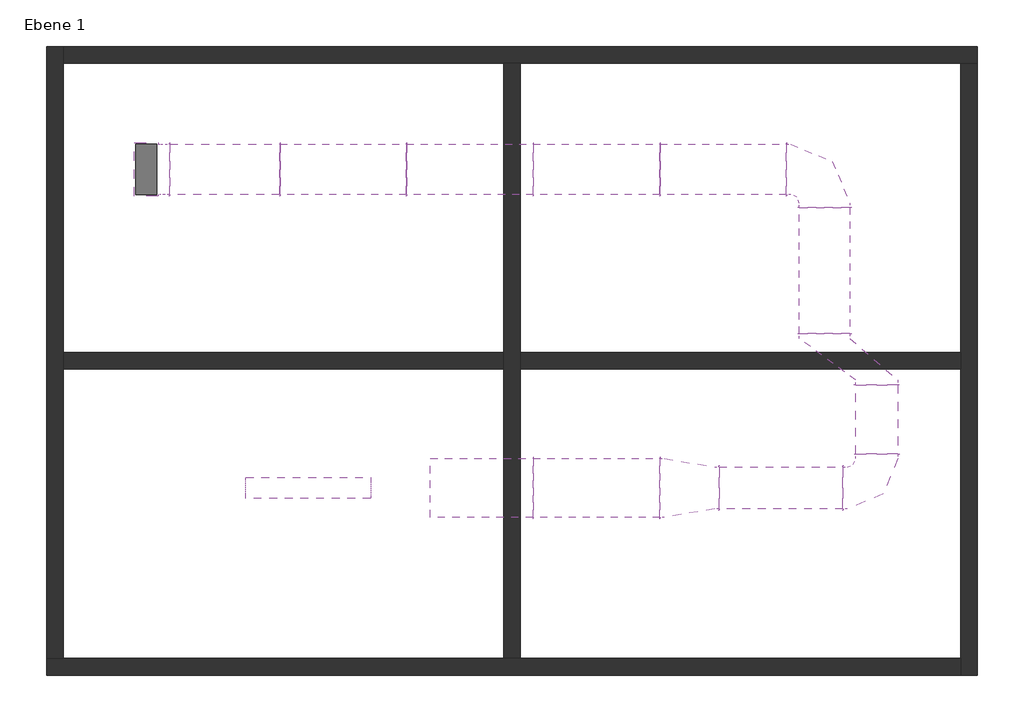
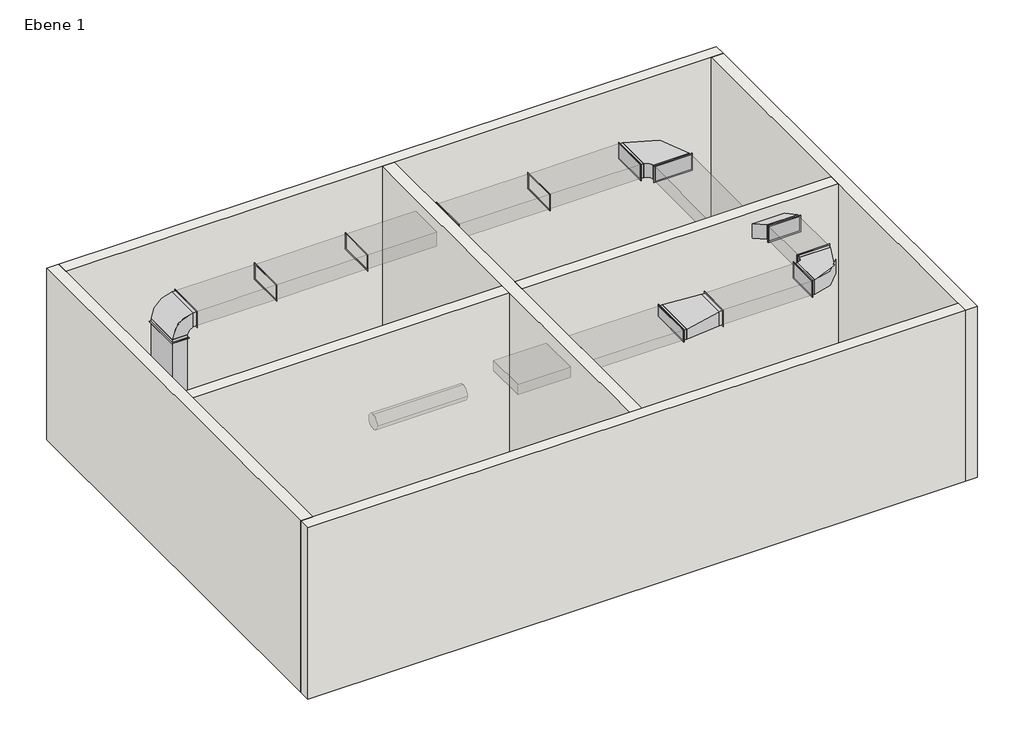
# One storey, incomplete: 12 duct segments, 10 duct fittings, 6 walls.
"""IFC4 building model written with IfcOpenShell, lengths in millimetres."""

import ifcopenshell
import ifcopenshell.guid

model = None  # the IFC model being written
_history = None  # IfcOwnerHistory: only IFC2X3 demands one
_inside = {}  # id of a spatial element -> (the spatial element, [elements in it])
_under = {}  # id of a project, library or spatial element -> (it, [spatial elements below it])
_declared = {}  # id of a project -> (the project, [libraries it declares])
_typed = {}  # id of a type object -> (the type object, [elements of that type])
_made_of = {}  # id of a material, layer set ... -> (it, [elements and type objects made of it])


def new_model(schema):
    """Start an empty IFC model of exactly this schema.

    Asked for "IFC4X3", IfcOpenShell would pick the latest addendum, in which some entities
    have other attributes; the version numbers below select the first issue.
    IFC2X3 requires an IfcOwnerHistory on every rooted entity: one is made here for all.
    """
    global model, _history
    if schema == "IFC4X3":
        model = ifcopenshell.file(schema_version=(4, 3, 0, 0))
    else:
        model = ifcopenshell.file(schema=schema)
    _inside.clear()
    _under.clear()
    _declared.clear()
    _typed.clear()
    _made_of.clear()
    _history = None
    if model.schema == "IFC2X3":
        org = make("IfcOrganization", Name="unknown")
        user = make(
            "IfcPersonAndOrganization",
            ThePerson=make("IfcPerson", FamilyName="unknown"),
            TheOrganization=org,
        )
        app = make(
            "IfcApplication",
            ApplicationDeveloper=org,
            Version="unknown",
            ApplicationFullName="unknown",
            ApplicationIdentifier="unknown",
        )
        _history = make(
            "IfcOwnerHistory",
            OwningUser=user,
            OwningApplication=app,
            ChangeAction="ADDED",
            CreationDate=0,
        )
    return model


def make(cls, **values):
    """One entity of the class cls with the attributes given. An attribute that is None is left unset."""
    return model.create_entity(
        cls, **{name: value for name, value in values.items() if value is not None}
    )


def rooted(cls, **values):
    """An entity with a GlobalId (a new one), such as an element, a storey or a relation."""
    return make(cls, GlobalId=ifcopenshell.guid.new(), OwnerHistory=_history, **values)


def si_unit(unit_type, name, prefix=None):
    """IfcSIUnit, for example si_unit("LENGTHUNIT", "METRE", prefix="MILLI")."""
    return make("IfcSIUnit", UnitType=unit_type, Prefix=prefix, Name=name)


def assignment(units):
    """IfcUnitAssignment: the units of a project."""
    return None if units is None else make("IfcUnitAssignment", Units=units)


def point(xyz):
    """IfcCartesianPoint."""
    return None if xyz is None else make("IfcCartesianPoint", Coordinates=xyz)


def direction(xyz):
    """IfcDirection."""
    return None if xyz is None else make("IfcDirection", DirectionRatios=xyz)


def frame(location, z_axis=None, x_axis=None):
    """IfcAxis2Placement3D, a coordinate frame: its origin and axes. An axis left out is left unset."""
    return make(
        "IfcAxis2Placement3D",
        Location=point(location),
        Axis=direction(z_axis),
        RefDirection=direction(x_axis),
    )


def frame_2d(location, x_axis=None):
    """IfcAxis2Placement2D, a coordinate frame in the plane: its origin and x axis."""
    return make(
        "IfcAxis2Placement2D", Location=point(location), RefDirection=direction(x_axis)
    )


def origin():
    """The frame at (0, 0, 0) with its axes left unset."""
    return frame((0.0, 0.0, 0.0))


def place(relative_to, where):
    """IfcLocalPlacement: puts the frame where relative to a parent placement (None: the world)."""
    return make(
        "IfcLocalPlacement", PlacementRelTo=relative_to, RelativePlacement=where
    )


def context(
    kind, dimensions, precision=None, world=None, true_north=None, identifier=None
):
    """IfcGeometricRepresentationContext, for example the 3D "Model" context."""
    return make(
        "IfcGeometricRepresentationContext",
        ContextIdentifier=identifier,
        ContextType=kind,
        CoordinateSpaceDimension=dimensions,
        Precision=precision,
        WorldCoordinateSystem=world,
        TrueNorth=true_north,
    )


def project(units=None, contexts=None):
    """IfcProject with its units and contexts."""
    return rooted(
        "IfcProject",
        Name="project",
        RepresentationContexts=contexts,
        UnitsInContext=assignment(units),
    )


def spatial(cls, under=None, at=None, **own):
    """A site, building, storey or space (cls), placed at a placement, below another one or the project."""
    s = rooted(cls, ObjectPlacement=at, **own)
    if under is not None:
        _under.setdefault(under.id(), (under, []))[1].append(s)
    return s


def polyline(points):
    """IfcPolyline through the points."""
    return make("IfcPolyline", Points=[point(p) for p in points])


def circle_curve(where, radius):
    """IfcCircle in the frame where."""
    return make("IfcCircle", Position=where, Radius=radius)


def trimmed(basis, trim1, trim2, sense, master):
    """IfcTrimmedCurve: the piece of a basis curve between two trims."""
    return make(
        "IfcTrimmedCurve",
        BasisCurve=basis,
        Trim1=trim1,
        Trim2=trim2,
        SenseAgreement=sense,
        MasterRepresentation=master,
    )


def segment(curve, same_sense, transition):
    """IfcCompositeCurveSegment."""
    return make(
        "IfcCompositeCurveSegment",
        Transition=transition,
        SameSense=same_sense,
        ParentCurve=curve,
    )


def composite_curve(segments, self_intersect=None):
    """IfcCompositeCurve: segments joined end to end."""
    return make("IfcCompositeCurve", Segments=segments, SelfIntersect=self_intersect)


def outline(outer, holes=None, kind="AREA"):
    """IfcArbitraryClosedProfileDef: a profile drawn as a closed curve; with holes, ...WithVoids."""
    if holes is None:
        return make("IfcArbitraryClosedProfileDef", ProfileType=kind, OuterCurve=outer)
    return make(
        "IfcArbitraryProfileDefWithVoids",
        ProfileType=kind,
        OuterCurve=outer,
        InnerCurves=holes,
    )


def extrude(swept, where, along, depth):
    """IfcExtrudedAreaSolid: the profile swept, set in the frame where, extruded along a direction by depth."""
    return make(
        "IfcExtrudedAreaSolid",
        SweptArea=swept,
        Position=where,
        ExtrudedDirection=direction(along),
        Depth=depth,
    )


def faces_of(points, faces, orient=None, outer=None):
    """IfcFace entities. A face is a list of loops; a loop is a list of indices into points, from 0.

    orient and outer hold one flag for each loop. By default every Orientation is true, the
    first loop of a face is its IfcFaceOuterBound and the others are IfcFaceBound.
    """
    made = []
    for i, loops in enumerate(faces):
        bounds = []
        for j, loop in enumerate(loops):
            is_outer = j == 0 if outer is None else outer[i][j]
            bounds.append(
                make(
                    "IfcFaceOuterBound" if is_outer else "IfcFaceBound",
                    Bound=make("IfcPolyLoop", Polygon=[points[k] for k in loop]),
                    Orientation=True if orient is None else orient[i][j],
                )
            )
        made.append(make("IfcFace", Bounds=bounds))
    return made


def faceted_brep(points, faces, orient=None, outer=None, voids=None):
    """IfcFacetedBrep: a solid bounded by flat faces; with voids (closed shells), ...WithVoids."""
    shared = [point(p) for p in points]
    hull = make("IfcClosedShell", CfsFaces=faces_of(shared, faces, orient, outer))
    if voids is None:
        return make("IfcFacetedBrep", Outer=hull)
    return make(
        "IfcFacetedBrepWithVoids",
        Outer=hull,
        Voids=[
            make(cls, CfsFaces=faces_of(shared, fs, o, b)) for cls, fs, o, b in voids
        ],
    )


def shape(context_of_items, identifier, shape_type, items):
    """IfcShapeRepresentation: the items that make up one representation, for example the "Body"."""
    return make(
        "IfcShapeRepresentation",
        ContextOfItems=context_of_items,
        RepresentationIdentifier=identifier,
        RepresentationType=shape_type,
        Items=items,
    )


def source(mapping_origin, context_of_items, identifier, shape_type, items):
    """IfcRepresentationMap: a shape defined once, which mapped items show again and again."""
    return make(
        "IfcRepresentationMap",
        MappingOrigin=mapping_origin,
        MappedRepresentation=shape(context_of_items, identifier, shape_type, items),
    )


def transform(
    local_origin,
    x_axis=None,
    y_axis=None,
    z_axis=None,
    scale=None,
    scale2=None,
    scale3=None,
    uniform=True,
):
    """IfcCartesianTransformationOperator3D, or its non-uniform kind. x_axis, y_axis, z_axis: its Axis1, 2, 3."""
    if uniform:
        return make(
            "IfcCartesianTransformationOperator3D",
            Axis1=direction(x_axis),
            Axis2=direction(y_axis),
            LocalOrigin=point(local_origin),
            Scale=scale,
            Axis3=direction(z_axis),
        )
    return make(
        "IfcCartesianTransformationOperator3DnonUniform",
        Axis1=direction(x_axis),
        Axis2=direction(y_axis),
        LocalOrigin=point(local_origin),
        Scale=scale,
        Axis3=direction(z_axis),
        Scale2=scale2,
        Scale3=scale3,
    )


def mapped(mapping_source, mapping_target):
    """IfcMappedItem: shows the shape of a source again, moved by a transform."""
    return make(
        "IfcMappedItem", MappingSource=mapping_source, MappingTarget=mapping_target
    )


def made_of(thing, what):
    """Note that an element or type object is made of a material, layer set ...; save() writes the relation."""
    if what is not None:
        _made_of.setdefault(what.id(), (what, []))[1].append(thing)
    return thing


def element(
    cls,
    number,
    at=None,
    inside=None,
    cuts=None,
    type_object=None,
    material=None,
    context=None,
    identifier="Body",
    shape_type=None,
    held_by="IfcProductDefinitionShape",
    body=None,
    shapes=None,
    **own,
):
    """One element of the class cls, such as IfcWall. Its Tag is "e" and its number.

    at: its placement. inside: the storey or other place that contains it. cuts: it is an
    opening in that element (IfcRelVoidsElement). A single representation is given by context,
    identifier, shape_type and body (its items); several are given by shapes. held_by: the class
    of the entity that holds the representations. save() writes the other relations.
    """
    e = rooted(cls, Tag="e%d" % number, ObjectPlacement=at, **own)
    if body is not None:
        shapes = [shape(context, identifier, shape_type, body)]
    if shapes is not None:
        e.Representation = make(held_by, Representations=shapes)
    if inside is not None:
        _inside.setdefault(inside.id(), (inside, []))[1].append(e)
    if cuts is not None:
        rooted(
            "IfcRelVoidsElement", RelatingBuildingElement=cuts, RelatedOpeningElement=e
        )
    if type_object is not None:
        _typed.setdefault(type_object.id(), (type_object, []))[1].append(e)
    return made_of(e, material)


def aggregate(whole, parts):
    """IfcRelAggregates: a whole, such as a stair, and the parts it consists of."""
    return rooted("IfcRelAggregates", RelatingObject=whole, RelatedObjects=parts)


def save(model, path):
    """Write the relations noted so far, then the file.

    IfcRelAggregates (storeys below a building ...), IfcRelContainedInSpatialStructure (elements
    in a storey), IfcRelDefinesByType, IfcRelAssociatesMaterial and IfcRelDeclares: one each for
    every whole, place, type object, material and project.
    """
    for whole, parts in _under.values():
        aggregate(whole, parts)
    for where, things in _inside.values():
        rooted(
            "IfcRelContainedInSpatialStructure",
            RelatedElements=things,
            RelatingStructure=where,
        )
    for kind, things in _typed.values():
        rooted("IfcRelDefinesByType", RelatedObjects=things, RelatingType=kind)
    for what, things in _made_of.values():
        rooted("IfcRelAssociatesMaterial", RelatedObjects=things, RelatingMaterial=what)
    for by, libraries in _declared.values():
        rooted("IfcRelDeclares", RelatingContext=by, RelatedDefinitions=libraries)
    model.write(path)


def standard_865bd023(model_context):
    return source(origin(), model_context, "Body", "SweptSolid", [
        extrude(outline(polyline([(300.0, 400.0), (-300.0, 400.0), (-300.0, 455.0), (300.0, 455.0), (300.0, 400.0)])), frame((0.0, 0.0, -125.0), z_axis=(0.0, 0.0, 1.0), x_axis=(1.0, 0.0, 0.0)), (0.0, 0.0, 1.0), 250.0),
        extrude(outline(polyline([(-455.0, 300.0), (-400.0, 300.0), (-400.0, -300.0), (-455.0, -300.0), (-455.0, 300.0)])), frame((0.0, 0.0, -125.0), z_axis=(0.0, 0.0, 1.0), x_axis=(1.0, 0.0, 0.0)), (0.0, 0.0, 1.0), 250.0),
        extrude(outline(composite_curve([segment(trimmed(circle_curve(frame_2d((-400.0, 400.0)), 700.0), [point((300.0, 400.0))], [point((-400.0, -300.0))], False, "CARTESIAN"), True, "CONTINUOUS"), segment(polyline([(-400.0, -300.0), (-400.0, 300.0)]), True, "CONTINUOUS"), segment(trimmed(circle_curve(frame_2d((-400.0, 400.0)), 100.0), [point((-400.0, 300.0))], [point((-300.0, 400.0))], True, "CARTESIAN"), True, "CONTINUOUS"), segment(polyline([(-300.0, 400.0), (300.0, 400.0)]), True, "CONTINUOUS")], self_intersect=False)), frame((0.0, 0.0, -125.0), z_axis=(0.0, 0.0, 1.0), x_axis=(1.0, 0.0, 0.0)), (0.0, 0.0, 1.0), 250.0),
        extrude(outline(polyline([(-455.0, -320.0), (-455.0, 320.0), (-450.0, 320.0), (-450.0, -320.0), (-455.0, -320.0)])), frame((0.0, 0.0, -145.0), z_axis=(0.0, 0.0, 1.0), x_axis=(1.0, 0.0, 0.0)), (0.0, 0.0, 1.0), 290.0),
        extrude(outline(polyline([(320.0, 450.0), (-320.0, 450.0), (-320.0, 455.0), (320.0, 455.0), (320.0, 450.0)])), frame((0.0, 0.0, -145.0), z_axis=(0.0, 0.0, 1.0), x_axis=(1.0, 0.0, 0.0)), (0.0, 0.0, 1.0), 290.0),
    ])


def standard_b8ae673c(model_context):
    return source(origin(), model_context, "Body", "SweptSolid", [
        extrude(outline(polyline([(-320.0, 145.0), (320.0, 145.0), (320.0, -145.0), (-320.0, -145.0), (-320.0, 145.0)]), holes=[polyline([(-300.0, 125.0), (-300.0, -125.0), (300.0, -125.0), (300.0, 125.0), (-300.0, 125.0)])]), frame((0.0, 0.0, 0.0), z_axis=(1.0, 0.0, 0.0), x_axis=(0.0, 1.0, 0.0)), (0.0, 0.0, 1.0), 5.0),
    ])


def standard_5b17af85(model_context):
    return source(origin(), model_context, "Body", "SweptSolid", [
        extrude(outline(polyline([(250.0, 350.0), (-250.0, 350.0), (-250.0, 405.0), (250.0, 405.0), (250.0, 350.0)])), frame((0.0, 0.0, -125.0), z_axis=(0.0, 0.0, 1.0), x_axis=(1.0, 0.0, 0.0)), (0.0, 0.0, 1.0), 250.0),
        extrude(outline(polyline([(-405.0, 250.0), (-350.0, 250.0), (-350.0, -250.0), (-405.0, -250.0), (-405.0, 250.0)])), frame((0.0, 0.0, -125.0), z_axis=(0.0, 0.0, 1.0), x_axis=(1.0, 0.0, 0.0)), (0.0, 0.0, 1.0), 250.0),
        extrude(outline(composite_curve([segment(trimmed(circle_curve(frame_2d((-350.0, 350.0)), 600.0), [point((250.0, 350.0))], [point((-350.0, -250.0))], False, "CARTESIAN"), True, "CONTINUOUS"), segment(polyline([(-350.0, -250.0), (-350.0, 250.0)]), True, "CONTINUOUS"), segment(trimmed(circle_curve(frame_2d((-350.0, 350.0)), 100.0), [point((-350.0, 250.0))], [point((-250.0, 350.0))], True, "CARTESIAN"), True, "CONTINUOUS"), segment(polyline([(-250.0, 350.0), (250.0, 350.0)]), True, "CONTINUOUS")], self_intersect=False)), frame((0.0, 0.0, -125.0), z_axis=(0.0, 0.0, 1.0), x_axis=(1.0, 0.0, 0.0)), (0.0, 0.0, 1.0), 250.0),
        extrude(outline(polyline([(-405.0, -270.0), (-405.0, 270.0), (-400.0, 270.0), (-400.0, -270.0), (-405.0, -270.0)])), frame((0.0, 0.0, -145.0), z_axis=(0.0, 0.0, 1.0), x_axis=(1.0, 0.0, 0.0)), (0.0, 0.0, 1.0), 290.0),
        extrude(outline(polyline([(270.0, 400.0), (-270.0, 400.0), (-270.0, 405.0), (270.0, 405.0), (270.0, 400.0)])), frame((0.0, 0.0, -145.0), z_axis=(0.0, 0.0, 1.0), x_axis=(1.0, 0.0, 0.0)), (0.0, 0.0, 1.0), 290.0),
    ])


def standard_06fb8837(model_context):
    return source(origin(), model_context, "Body", "SweptSolid", [
        extrude(outline(polyline([(555.0, 323.5465335), (555.0, 923.5465335), (610.0, 923.5465335), (610.0, 323.5465335), (555.0, 323.5465335)])), frame((0.0, 0.0, -125.0), z_axis=(0.0, 0.0, 1.0), x_axis=(1.0, 0.0, 0.0)), (0.0, 0.0, 1.0), 250.0),
        extrude(outline(polyline([(55.0, -250.0), (55.0, 250.0), (555.0, 923.5465335), (555.0, 323.5465335), (55.0, -250.0)])), frame((0.0, 0.0, -125.0), z_axis=(0.0, 0.0, 1.0), x_axis=(1.0, 0.0, 0.0)), (0.0, 0.0, 1.0), 250.0),
        extrude(outline(polyline([(0.0, -250.0), (0.0, 250.0), (55.0, 250.0), (55.0, -250.0), (0.0, -250.0)])), frame((0.0, 0.0, -125.0), z_axis=(0.0, 0.0, 1.0), x_axis=(1.0, 0.0, 0.0)), (0.0, 0.0, 1.0), 250.0),
        extrude(outline(polyline([(605.0, 303.5465335), (605.0, 943.5465335), (610.0, 943.5465335), (610.0, 303.5465335), (605.0, 303.5465335)])), frame((0.0, 0.0, -145.0), z_axis=(0.0, 0.0, 1.0), x_axis=(1.0, 0.0, 0.0)), (0.0, 0.0, 1.0), 290.0),
        extrude(outline(polyline([(0.0, -270.0), (0.0, 270.0), (5.0, 270.0), (5.0, -270.0), (0.0, -270.0)])), frame((0.0, 0.0, -145.0), z_axis=(0.0, 0.0, 1.0), x_axis=(1.0, 0.0, 0.0)), (0.0, 0.0, 1.0), 290.0),
    ])


def standard_ae849d8b(model_context):
    return source(origin(), model_context, "Body", "SweptSolid", [
        extrude(outline(polyline([(-370.0, 107.5), (370.0, 107.5), (370.0, -107.5), (-370.0, -107.5), (-370.0, 107.5)]), holes=[polyline([(-350.0, 87.5), (-350.0, -87.5), (350.0, -87.5), (350.0, 87.5), (-350.0, 87.5)])]), frame((0.0, 0.0, 0.0), z_axis=(1.0, 0.0, 0.0), x_axis=(0.0, 1.0, 0.0)), (0.0, 0.0, 1.0), 5.0),
    ])


def standard_6fa5d38b(model_context):
    return source(origin(), model_context, "Body", "SolidModel", [
        extrude(outline(polyline([(655.0, -250.0), (655.0, 250.0), (710.0, 250.0), (710.0, -250.0), (655.0, -250.0)])), frame((0.0, 0.0, -125.0), z_axis=(0.0, 0.0, 1.0), x_axis=(1.0, 0.0, 0.0)), (0.0, 0.0, 1.0), 250.0),
        faceted_brep([(655.0, 250.0, 125.0), (655.0, -250.0, 125.0), (655.0, -250.0, -125.0), (655.0, 250.0, -125.0), (55.0, 350.0, 87.5), (55.0, 350.0, -87.5), (55.0, -350.0, -87.5), (55.0, -350.0, 87.5)], [[[0, 1, 2, 3]], [[4, 5, 6, 7]], [[5, 4, 0, 3]], [[4, 7, 1, 0]], [[7, 6, 2, 1]], [[6, 5, 3, 2]]]),
        extrude(outline(polyline([(0.0, -350.0), (0.0, 350.0), (55.0, 350.0), (55.0, -350.0), (0.0, -350.0)])), frame((0.0, 0.0, -87.5), z_axis=(0.0, 0.0, 1.0), x_axis=(1.0, 0.0, 0.0)), (0.0, 0.0, 1.0), 175.0),
        extrude(outline(polyline([(705.0, -270.0), (705.0, 270.0), (710.0, 270.0), (710.0, -270.0), (705.0, -270.0)])), frame((0.0, 0.0, -145.0), z_axis=(0.0, 0.0, 1.0), x_axis=(1.0, 0.0, 0.0)), (0.0, 0.0, 1.0), 290.0),
        extrude(outline(polyline([(0.0, -370.0), (0.0, 370.0), (5.0, 370.0), (5.0, -370.0), (0.0, -370.0)])), frame((0.0, 0.0, -107.5), z_axis=(0.0, 0.0, 1.0), x_axis=(1.0, 0.0, 0.0)), (0.0, 0.0, 1.0), 215.0),
    ])


def standard_d2678366(model_context):
    return source(origin(), model_context, "Body", "SweptSolid", [
        extrude(outline(polyline([(125.0, 225.0), (-125.0, 225.0), (-125.0, 280.0), (125.0, 280.0), (125.0, 225.0)])), frame((0.0, 0.0, -300.0), z_axis=(0.0, 0.0, 1.0), x_axis=(1.0, 0.0, 0.0)), (0.0, 0.0, 1.0), 600.0),
        extrude(outline(polyline([(-280.0, 125.0), (-225.0, 125.0), (-225.0, -125.0), (-280.0, -125.0), (-280.0, 125.0)])), frame((0.0, 0.0, -300.0), z_axis=(0.0, 0.0, 1.0), x_axis=(1.0, 0.0, 0.0)), (0.0, 0.0, 1.0), 600.0),
        extrude(outline(composite_curve([segment(trimmed(circle_curve(frame_2d((-225.0, 225.0)), 350.0), [point((125.0, 225.0))], [point((-225.0, -125.0))], False, "CARTESIAN"), True, "CONTINUOUS"), segment(polyline([(-225.0, -125.0), (-225.0, 125.0)]), True, "CONTINUOUS"), segment(trimmed(circle_curve(frame_2d((-225.0, 225.0)), 100.0), [point((-225.0, 125.0))], [point((-125.0, 225.0))], True, "CARTESIAN"), True, "CONTINUOUS"), segment(polyline([(-125.0, 225.0), (125.0, 225.0)]), True, "CONTINUOUS")], self_intersect=False)), frame((0.0, 0.0, -300.0), z_axis=(0.0, 0.0, 1.0), x_axis=(1.0, 0.0, 0.0)), (0.0, 0.0, 1.0), 600.0),
        extrude(outline(polyline([(-280.0, -145.0), (-280.0, 145.0), (-275.0, 145.0), (-275.0, -145.0), (-280.0, -145.0)])), frame((0.0, 0.0, -320.0), z_axis=(0.0, 0.0, 1.0), x_axis=(1.0, 0.0, 0.0)), (0.0, 0.0, 1.0), 640.0),
        extrude(outline(polyline([(145.0, 275.0), (-145.0, 275.0), (-145.0, 280.0), (145.0, 280.0), (145.0, 275.0)])), frame((0.0, 0.0, -320.0), z_axis=(0.0, 0.0, 1.0), x_axis=(1.0, 0.0, 0.0)), (0.0, 0.0, 1.0), 640.0),
    ])


model = new_model("IFC4")

# Units and contexts
model_context = context("Model", 3, world=origin())
ifc_project = project(units=[si_unit("LENGTHUNIT", "METRE", prefix="MILLI")], contexts=[model_context])

# Site, building, storey
site = spatial("IfcSite", under=ifc_project)
building = spatial("IfcBuilding", under=site)
storey = spatial("IfcBuildingStorey", under=building, Name="Ebene 1", Elevation=3000.0)

# Duct fittings
placement = place(None, origin())
standard_shape = standard_865bd023(model_context)
element("IfcDuctFitting", 1, ObjectType="Bogen rechteck BS : Standard", at=placement, inside=storey, context=model_context, shape_type="MappedRepresentation", body=[
    mapped(standard_shape, transform((9176.0301103, 5932.8790279, 5673.7185147), x_axis=(0.0, 1.0, 0.0), y_axis=(-1.0, 0.0, 0.0), z_axis=(0.0, 0.0, 1.0))),
])
standard_2_shape = standard_b8ae673c(model_context)
element("IfcDuctFitting", 2, ObjectType="Flansch rechteck : Standard", at=placement, inside=storey, context=model_context, shape_type="MappedRepresentation", body=[
    mapped(standard_2_shape, transform((2681.0301583, 5932.8790279, 5673.7185147), x_axis=(1.0, 0.0, 0.0), y_axis=(0.0, 1.0, 0.0), z_axis=(0.0, 0.0, 1.0))),
])
element("IfcDuctFitting", 3, ObjectType="Flansch rechteck : Standard", at=placement, inside=storey, context=model_context, shape_type="MappedRepresentation", body=[
    mapped(standard_2_shape, transform((4191.0302063, 5932.8790279, 5673.7185147), x_axis=(1.0, 0.0, 0.0), y_axis=(0.0, 1.0, 0.0), z_axis=(0.0, 0.0, 1.0))),
])
element("IfcDuctFitting", 4, ObjectType="Flansch rechteck : Standard", at=placement, inside=storey, context=model_context, shape_type="MappedRepresentation", body=[
    mapped(standard_2_shape, transform((5701.0302543, 5932.8790279, 5673.7185147), x_axis=(1.0, 0.0, 0.0), y_axis=(0.0, 1.0, 0.0), z_axis=(0.0, 0.0, 1.0))),
])
element("IfcDuctFitting", 5, ObjectType="Flansch rechteck : Standard", at=placement, inside=storey, context=model_context, shape_type="MappedRepresentation", body=[
    mapped(standard_2_shape, transform((7211.0303023, 5932.8790279, 5673.7185147), x_axis=(1.0, 0.0, 0.0), y_axis=(0.0, 1.0, 0.0), z_axis=(0.0, 0.0, 1.0))),
])
standard_3_shape = standard_5b17af85(model_context)
element("IfcDuctFitting", 6, ObjectType="Bogen rechteck BS : Standard", at=placement, inside=storey, context=model_context, shape_type="MappedRepresentation", body=[
    mapped(standard_3_shape, transform((9799.5766439, 2132.8790279, 5673.7185147), x_axis=(1.0, 0.0, 0.0), y_axis=(0.0, 1.0, 0.0), z_axis=(0.0, 0.0, 1.0))),
])
standard_4_shape = standard_06fb8837(model_context)
element("IfcDuctFitting", 7, ObjectType="Übergang rechteck UA : Standard", at=placement, inside=storey, context=model_context, shape_type="MappedRepresentation", body=[
    mapped(standard_4_shape, transform((9799.5766439, 3362.8789799, 5673.7185147), x_axis=(0.0, 1.0, 0.0), y_axis=(-1.0, 0.0, 0.0), z_axis=(0.0, 0.0, 1.0))),
])
standard_5_shape = standard_ae849d8b(model_context)
element("IfcDuctFitting", 8, ObjectType="Flansch rechteck : Standard", at=placement, inside=storey, context=model_context, shape_type="MappedRepresentation", body=[
    mapped(standard_5_shape, transform((5706.0300143, 2132.8790279, 5673.7185147), x_axis=(-1.0, 0.0, 0.0), y_axis=(0.0, -1.0, 0.0), z_axis=(0.0, 0.0, 1.0))),
])
standard_6_shape = standard_6fa5d38b(model_context)
element("IfcDuctFitting", 9, ObjectType="Übergang rechteck UA : Standard", at=placement, inside=storey, context=model_context, shape_type="MappedRepresentation", body=[
    mapped(standard_6_shape, transform((7211.0300623, 2132.8790279, 5673.7185147), x_axis=(1.0, 0.0, 0.0), y_axis=(0.0, 1.0, 0.0), z_axis=(0.0, 0.0, 1.0))),
])
standard_7_shape = standard_d2678366(model_context)
element("IfcDuctFitting", 10, ObjectType="Bogen rechteck BS : Standard", at=placement, inside=storey, context=model_context, shape_type="MappedRepresentation", body=[
    mapped(standard_7_shape, transform((1088.5301103, 5932.8790279, 5673.7185147), x_axis=(-1.0, 0.0, 0.0), y_axis=(0.0, 0.0, -1.0), z_axis=(0.0, -1.0, 0.0))),
])

# Duct segments
element("IfcDuctSegment", 11, ObjectType="Bogen - T-Stück", at=placement, inside=storey, context=model_context, shape_type="SweptSolid", body=[
    extrude(outline(polyline([(7216.0303023, 5632.8790279), (7216.0303023, 6232.8790279), (8721.0301103, 6232.8790279), (8721.0301103, 5632.8790279), (7216.0303023, 5632.8790279)])), frame((0.0, 0.0, 5548.7185147), z_axis=(0.0, 0.0, 1.0), x_axis=(1.0, 0.0, 0.0)), (0.0, 0.0, 1.0), 250.0),
])
element("IfcDuctSegment", 12, ObjectType="Bogen - T-Stück", at=placement, inside=storey, context=model_context, shape_type="SweptSolid", body=[
    extrude(outline(polyline([(5701.0300143, 2482.8790279), (5701.0300143, 1782.8790279), (4476.0301103, 1782.8790279), (4476.0301103, 2482.8790279), (5701.0300143, 2482.8790279)])), frame((0.0, 0.0, 5586.2185147), z_axis=(0.0, 0.0, 1.0), x_axis=(1.0, 0.0, 0.0)), (0.0, 0.0, 1.0), 175.0),
])
element("IfcDuctSegment", 13, ObjectType="Bogen - Stutzen", at=placement, inside=storey, context=model_context, shape_type="SweptSolid", body=[
    extrude(outline(composite_curve([segment(trimmed(circle_curve(frame_2d((2132.8790279, 5673.7185147)), 125.0), [point((2257.8790279, 5673.7185147))], [point((2132.8790279, 5548.7185147))], False, "CARTESIAN"), True, "CONTINUOUS"), segment(trimmed(circle_curve(frame_2d((2132.8790279, 5673.7185147)), 125.0), [point((2132.8790279, 5548.7185147))], [point((2007.8790279, 5673.7185147))], False, "CARTESIAN"), True, "CONTINUOUS"), segment(trimmed(circle_curve(frame_2d((2132.8790279, 5673.7185147)), 125.0), [point((2007.8790279, 5673.7185147))], [point((2132.8790279, 5798.7185147))], False, "CARTESIAN"), True, "CONTINUOUS"), segment(trimmed(circle_curve(frame_2d((2132.8790279, 5673.7185147)), 125.0), [point((2132.8790279, 5798.7185147))], [point((2257.8790279, 5673.7185147))], False, "CARTESIAN"), True, "CONTINUOUS")], self_intersect=False)), frame((2276.0301103, 0.0, 0.0), z_axis=(1.0, 0.0, 0.0), x_axis=(0.0, 1.0, 0.0)), (0.0, 0.0, 1.0), 1490.0),
])
element("IfcDuctSegment", 14, ObjectType="Bogen - T-Stück", at=placement, inside=storey, context=model_context, shape_type="SweptSolid", body=[
    extrude(outline(polyline([(2686.0301583, 5632.8790279), (2686.0301583, 6232.8790279), (4191.0302063, 6232.8790279), (4191.0302063, 5632.8790279), (2686.0301583, 5632.8790279)])), frame((0.0, 0.0, 5548.7185147), z_axis=(0.0, 0.0, 1.0), x_axis=(1.0, 0.0, 0.0)), (0.0, 0.0, 1.0), 250.0),
])
element("IfcDuctSegment", 15, ObjectType="Bogen - T-Stück", at=placement, inside=storey, context=model_context, shape_type="SweptSolid", body=[
    extrude(outline(polyline([(4196.0302063, 5632.8790279), (4196.0302063, 6232.8790279), (5701.0302543, 6232.8790279), (5701.0302543, 5632.8790279), (4196.0302063, 5632.8790279)])), frame((0.0, 0.0, 5548.7185147), z_axis=(0.0, 0.0, 1.0), x_axis=(1.0, 0.0, 0.0)), (0.0, 0.0, 1.0), 250.0),
])
element("IfcDuctSegment", 16, ObjectType="Bogen - T-Stück", at=placement, inside=storey, context=model_context, shape_type="SweptSolid", body=[
    extrude(outline(polyline([(5706.0302543, 5632.8790279), (5706.0302543, 6232.8790279), (7211.0303023, 6232.8790279), (7211.0303023, 5632.8790279), (5706.0302543, 5632.8790279)])), frame((0.0, 0.0, 5548.7185147), z_axis=(0.0, 0.0, 1.0), x_axis=(1.0, 0.0, 0.0)), (0.0, 0.0, 1.0), 250.0),
])
element("IfcDuctSegment", 17, ObjectType="Bogen - T-Stück", at=placement, inside=storey, context=model_context, shape_type="SweptSolid", body=[
    extrude(outline(polyline([(8876.0301103, 5477.8790279), (9476.0301103, 5477.8790279), (9476.0301103, 3972.8789799), (8876.0301103, 3972.8789799), (8876.0301103, 5477.8790279)])), frame((0.0, 0.0, 5548.7185147), z_axis=(0.0, 0.0, 1.0), x_axis=(1.0, 0.0, 0.0)), (0.0, 0.0, 1.0), 250.0),
])
element("IfcDuctSegment", 18, ObjectType="Bogen - T-Stück", at=placement, inside=storey, context=model_context, shape_type="SweptSolid", body=[
    extrude(outline(polyline([(9394.5766439, 2382.8790279), (9394.5766439, 1882.8790279), (7921.0300623, 1882.8790279), (7921.0300623, 2382.8790279), (9394.5766439, 2382.8790279)])), frame((0.0, 0.0, 5548.7185147), z_axis=(0.0, 0.0, 1.0), x_axis=(1.0, 0.0, 0.0)), (0.0, 0.0, 1.0), 250.0),
])
element("IfcDuctSegment", 19, ObjectType="Bogen - T-Stück", at=placement, inside=storey, context=model_context, shape_type="SweptSolid", body=[
    extrude(outline(polyline([(7211.0300623, 2482.8790279), (7211.0300623, 1782.8790279), (5706.0300143, 1782.8790279), (5706.0300143, 2482.8790279), (7211.0300623, 2482.8790279)])), frame((0.0, 0.0, 5586.2185147), z_axis=(0.0, 0.0, 1.0), x_axis=(1.0, 0.0, 0.0)), (0.0, 0.0, 1.0), 175.0),
])
element("IfcDuctSegment", 20, ObjectType="Bogen - T-Stück", at=placement, inside=storey, context=model_context, shape_type="SweptSolid", body=[
    extrude(outline(polyline([(10049.5766439, 2537.8790279), (9549.5766439, 2537.8790279), (9549.5766439, 3362.8789799), (10049.5766439, 3362.8789799), (10049.5766439, 2537.8790279)])), frame((0.0, 0.0, 5548.7185147), z_axis=(0.0, 0.0, 1.0), x_axis=(1.0, 0.0, 0.0)), (0.0, 0.0, 1.0), 250.0),
])
element("IfcDuctSegment", 21, ObjectType="Bogen - T-Stück", at=placement, inside=storey, context=model_context, shape_type="SweptSolid", body=[
    extrude(outline(polyline([(2681.0301583, 6232.8790279), (2681.0301583, 5632.8790279), (1368.5301103, 5632.8790279), (1368.5301103, 6232.8790279), (2681.0301583, 6232.8790279)])), frame((0.0, 0.0, 5548.7185147), z_axis=(0.0, 0.0, 1.0), x_axis=(1.0, 0.0, 0.0)), (0.0, 0.0, 1.0), 250.0),
])
element("IfcDuctSegment", 22, ObjectType="Bogen - T-Stück", at=placement, inside=storey, context=model_context, shape_type="SweptSolid", body=[
    extrude(outline(polyline([(963.5301103, 5632.8790279), (963.5301103, 6232.8790279), (1213.5301103, 6232.8790279), (1213.5301103, 5632.8790279), (963.5301103, 5632.8790279)])), frame((0.0, 0.0, 3552.4897678), z_axis=(0.0, 0.0, 1.0), x_axis=(1.0, 0.0, 0.0)), (0.0, 0.0, 1.0), 1841.2287469),
])

# Walls
element("IfcWall", 23, ObjectType="Standard", at=placement, inside=storey, context=model_context, shape_type="Brep", body=[
    faceted_brep([(-100.0, -100.0, 3000.0), (10800.0, -100.0, 3000.0), (10800.0, -100.0, 6000.0), (-100.0, -100.0, 6000.0), (-100.0, 100.0, 3000.0), (-100.0, 100.0, 6000.0), (100.0, 100.0, 6000.0), (5350.0, 100.0, 6000.0), (5550.0, 100.0, 6000.0), (10800.0, 100.0, 6000.0), (10800.0, 100.0, 3000.0), (5550.0, 100.0, 3000.0), (5350.0, 100.0, 3000.0), (100.0, 100.0, 3000.0)], [[[0, 1, 2, 3]], [[4, 5, 6, 7, 8, 9, 10, 11, 12, 13]], [[1, 0, 4, 13, 12, 11, 10]], [[3, 2, 9, 8, 7, 6, 5]], [[0, 3, 5, 4]], [[2, 1, 10, 9]]]),
])
element("IfcWall", 24, ObjectType="Standard", at=placement, inside=storey, context=model_context, shape_type="Brep", body=[
    faceted_brep([(-100.0, 7400.0, 3000.0), (-100.0, 100.0, 3000.0), (-100.0, 100.0, 6000.0), (-100.0, 7400.0, 6000.0), (100.0, 7400.0, 3000.0), (100.0, 7400.0, 6000.0), (100.0, 7200.0, 6000.0), (100.0, 3750.0, 6000.0), (100.0, 3550.0, 6000.0), (100.0, 100.0, 6000.0), (100.0, 100.0, 3000.0), (100.0, 3550.0, 3000.0), (100.0, 3750.0, 3000.0), (100.0, 7200.0, 3000.0)], [[[0, 1, 2, 3]], [[4, 5, 6, 7, 8, 9, 10, 11, 12, 13]], [[1, 0, 4, 13, 12, 11, 10]], [[3, 2, 9, 8, 7, 6, 5]], [[0, 3, 5, 4]], [[2, 1, 10, 9]]]),
])
element("IfcWall", 25, ObjectType="Standard", at=placement, inside=storey, context=model_context, shape_type="Brep", body=[
    faceted_brep([(11000.0, 7400.0, 3000.0), (100.0, 7400.0, 3000.0), (100.0, 7400.0, 6000.0), (11000.0, 7400.0, 6000.0), (11000.0, 7200.0, 3000.0), (11000.0, 7200.0, 6000.0), (10800.0, 7200.0, 6000.0), (5550.0, 7200.0, 6000.0), (5350.0, 7200.0, 6000.0), (100.0, 7200.0, 6000.0), (100.0, 7200.0, 3000.0), (5350.0, 7200.0, 3000.0), (5550.0, 7200.0, 3000.0), (10800.0, 7200.0, 3000.0)], [[[0, 1, 2, 3]], [[4, 5, 6, 7, 8, 9, 10, 11, 12, 13]], [[1, 0, 4, 13, 12, 11, 10]], [[3, 2, 9, 8, 7, 6, 5]], [[0, 3, 5, 4]], [[2, 1, 10, 9]]]),
])
element("IfcWall", 26, ObjectType="Standard", at=placement, inside=storey, context=model_context, shape_type="Brep", body=[
    faceted_brep([(11000.0, -100.0, 3000.0), (11000.0, 7200.0, 3000.0), (11000.0, 7200.0, 6000.0), (11000.0, -100.0, 6000.0), (10800.0, -100.0, 3000.0), (10800.0, -100.0, 6000.0), (10800.0, 100.0, 6000.0), (10800.0, 3550.0, 6000.0), (10800.0, 3750.0, 6000.0), (10800.0, 7200.0, 6000.0), (10800.0, 7200.0, 3000.0), (10800.0, 3750.0, 3000.0), (10800.0, 3550.0, 3000.0), (10800.0, 100.0, 3000.0)], [[[0, 1, 2, 3]], [[4, 5, 6, 7, 8, 9, 10, 11, 12, 13]], [[1, 0, 4, 13, 12, 11, 10]], [[3, 2, 9, 8, 7, 6, 5]], [[0, 3, 5, 4]], [[2, 1, 10, 9]]]),
])
element("IfcWall", 27, ObjectType="Standard", at=placement, inside=storey, context=model_context, shape_type="Brep", body=[
    faceted_brep([(5350.0, 7200.0, 3000.0), (5350.0, 3750.0, 3000.0), (5350.0, 3550.0, 3000.0), (5350.0, 100.0, 3000.0), (5350.0, 100.0, 6000.0), (5350.0, 3550.0, 6000.0), (5350.0, 3750.0, 6000.0), (5350.0, 7200.0, 6000.0), (5550.0, 7200.0, 3000.0), (5550.0, 7200.0, 6000.0), (5550.0, 3750.0, 6000.0), (5550.0, 3550.0, 6000.0), (5550.0, 100.0, 6000.0), (5550.0, 100.0, 3000.0), (5550.0, 3550.0, 3000.0), (5550.0, 3750.0, 3000.0)], [[[0, 1, 2, 3, 4, 5, 6, 7]], [[8, 9, 10, 11, 12, 13, 14, 15]], [[3, 2, 1, 0, 8, 15, 14, 13]], [[7, 6, 5, 4, 12, 11, 10, 9]], [[4, 3, 13, 12]], [[0, 7, 9, 8]]]),
])
element("IfcWall", 28, ObjectType="Standard", at=placement, inside=storey, context=model_context, shape_type="SweptSolid", body=[
    extrude(outline(polyline([(100.0, 3550.0), (100.0, 3750.0), (5350.0, 3750.0), (5350.0, 3550.0), (100.0, 3550.0)])), frame((0.0, 0.0, 3000.0), z_axis=(0.0, 0.0, 1.0), x_axis=(1.0, 0.0, 0.0)), (0.0, 0.0, 1.0), 3000.0),
    extrude(outline(polyline([(10800.0, 3750.0), (10800.0, 3550.0), (5550.0, 3550.0), (5550.0, 3750.0), (10800.0, 3750.0)])), frame((0.0, 0.0, 3000.0), z_axis=(0.0, 0.0, 1.0), x_axis=(1.0, 0.0, 0.0)), (0.0, 0.0, 1.0), 3000.0),
])

save(model, "model.ifc")
